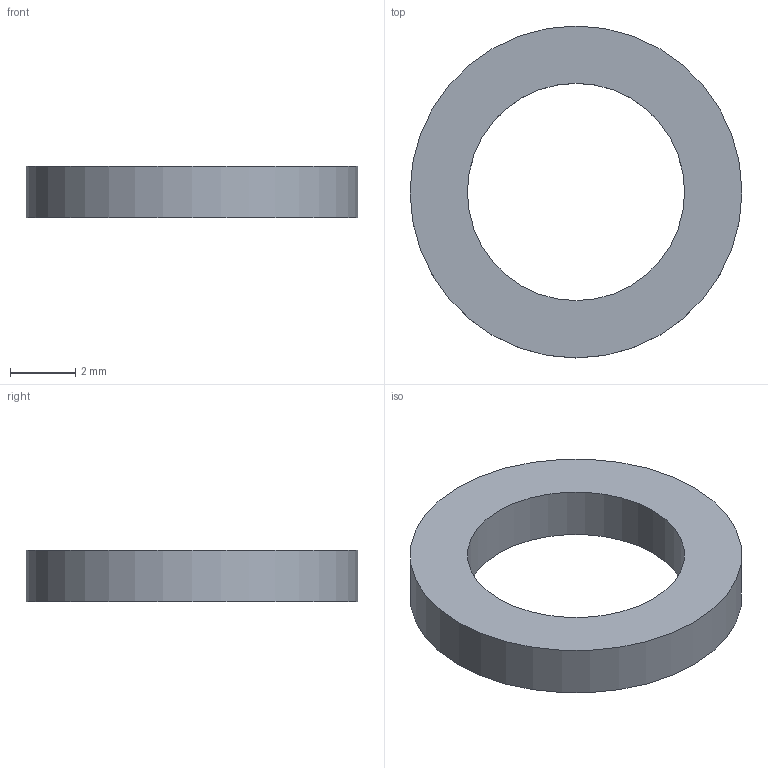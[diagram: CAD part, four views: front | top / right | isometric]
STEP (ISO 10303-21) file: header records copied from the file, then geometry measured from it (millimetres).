
FILE_DESCRIPTION(/* description */ ('STEP AP242 Edition 2','CAx-IF Rec.Pracs.---Representation and Presentation of Product Manufacturing Information (PMI)---4.0---2014-10-13','CAx-IF Rec.Pracs.---3D Tessellated Geometry---0.4---2014-09-14','2;1','CAx-IF Rec.Pracs.---User Defined Attributes---1.5---2016-08-15'),/* implementation_level */ '2;1');
FILE_NAME(/* name */ 'Main - tiny spacer',/* time_stamp */ '2026-09-13T15:50:02Z',/* author */ (''),/* organization */ (''),/* preprocessor_version */ 'ST-DEVELOPER v20',/* originating_system */ 'ONSHAPE BY PTC INC, 1.220',/* authorisation */ ' ');
FILE_SCHEMA (('AP242_MANAGED_MODEL_BASED_3D_ENGINEERING_MIM_LF { 1 0 10303 442 3 1 4 }'));
Length unit declared in the file: metre
Products named in the file (1): tiny spacer
Bounding box: 10.16 x 10.16 x 1.59 mm (x, y, z)
Volume: 73.6 mm3; surface area: 176.5 mm2
Topology: 1 solids, 1 shells, 4 faces, 6 edges, 4 vertices
Faces by surface type: cylinder 2, plane 2
Full cylindrical faces by diameter (mm): 6.65 x1, 10.16 x1
Entity records: 110 total; most frequent: DIRECTION 18, CARTESIAN_POINT 13, AXIS2_PLACEMENT_3D 9, ORIENTED_EDGE 8, EDGE_LOOP 8, FACE_BOUND 8, EDGE_CURVE 4, VERTEX_POINT 4
